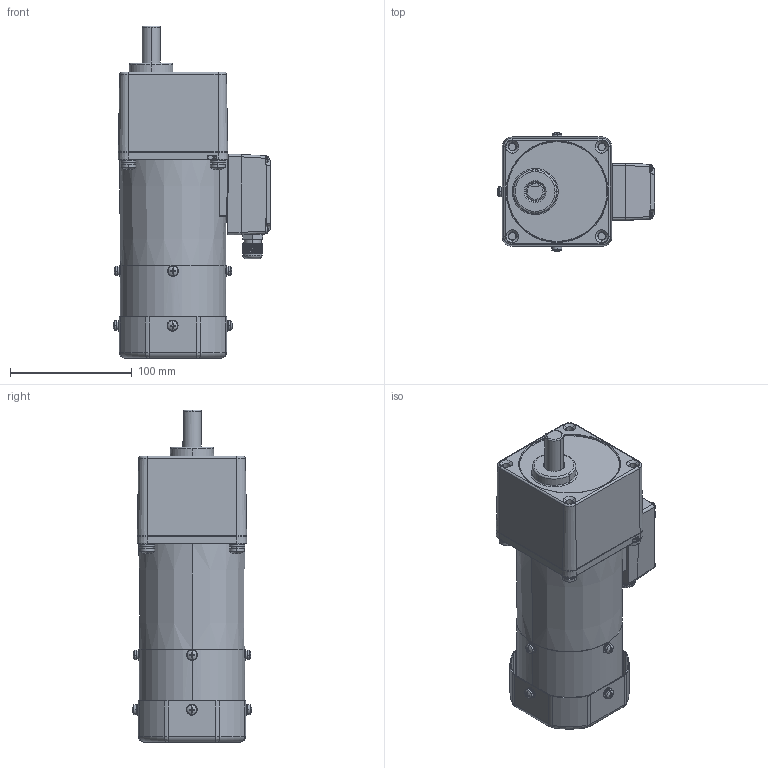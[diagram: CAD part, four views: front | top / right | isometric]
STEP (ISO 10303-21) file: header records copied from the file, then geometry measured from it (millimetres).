
FILE_DESCRIPTION (( 'STEP AP203' ), '1' );
FILE_NAME ('5RK60GU-CMFT(5GU3KB-200KB).STEP', '2023-08-08T06:08:03', ( 'Windows User' ), ( 'P R C' ), 'SwSTEP 2.0', 'SolidWorks 2019', '' );
FILE_SCHEMA (( 'CONFIG_CONTROL_DESIGN' ));
Length unit declared in the file: millimetre
Products named in the file (14): 70TSJXHG^___5RK60GU-CMFT(5GU3KB-200KB)(2)_5RK60GU-CMFT(5GU3KB-200KB); ^__5RK60GU-CMFT(5GU3KB-200KB)(2)_5RK60GU-CMFT(5GU3KB-200KB); ^_5RK60GU-CMFT(5GU3KB-200KB)(2)_5RK60GU-CMFT(5GU3KB-200KB); 葩璃 (2) ^___5RK60GU-CMFT(5GU3KB-200KB)(2)_5RK60GU-CMFT(5GU3KB-200KB); ^_70TSJXHG____5RK60GU-CMFT(5GU3KB-200KB)(2)_5RK60GU-CMFT(5GU3KB-200KB); 5RK60GU-CMFT(5GU3KB-200KB); 5RK60GU-CMFT(5GU3KB-200KB)(2)^5RK60GU-CMFT(5GU3KB-200KB); ^___5RK60GU-CMFT(5GU3KB-200KB)(2)_5RK60GU-CMFT(5GU3KB-200KB); 葩璃 (3) ^_70TSJXHG____5RK60GU-CMFT(5GU3KB-200KB)(2)_5RK60GU-CMFT(5GU3KB-200KB); ^70TSJXHG____5RK60GU-CMFT(5GU3KB-200KB)(2)_5RK60GU-CMFT(5GU3KB-200KB); 葩璃 (2) ^_70TSJXHG____5RK60GU-CMFT(5GU3KB-200KB)(2)_5RK60GU-CMFT(5GU3KB-200KB); 5GU3KB-200KB^5RK60GU-CMFT(5GU3KB-200KB)(2)_5RK60GU-CMFT(5GU3KB-200KB); ^5RK60GU-CMFT(5GU3KB-200KB)(2)_5RK60GU-CMFT(5GU3KB-200KB)
Assembly tree (16 placements, depth 8):
  5RK60GU-CMFT(5GU3KB-200KB)
    5RK60GU-CMFT(5GU3KB-200KB)(2)^5RK60GU-CMFT(5GU3KB-200KB)
      ^5RK60GU-CMFT(5GU3KB-200KB)(2)_5RK60GU-CMFT(5GU3KB-200KB)
        ^_5RK60GU-CMFT(5GU3KB-200KB)(2)_5RK60GU-CMFT(5GU3KB-200KB)
          ^__5RK60GU-CMFT(5GU3KB-200KB)(2)_5RK60GU-CMFT(5GU3KB-200KB)
            70TSJXHG^___5RK60GU-CMFT(5GU3KB-200KB)(2)_5RK60GU-CMFT(5GU3KB-200KB)
              ^70TSJXHG____5RK60GU-CMFT(5GU3KB-200KB)(2)_5RK60GU-CMFT(5GU3KB-200KB)
                ^_70TSJXHG____5RK60GU-CMFT(5GU3KB-200KB)(2)_5RK60GU-CMFT(5GU3KB-200KB)
                葩璃 (2) ^_70TSJXHG____5RK60GU-CMFT(5GU3KB-200KB)(2)_5RK60GU-CMFT(5GU3KB-200KB)
                葩璃 (3) ^_70TSJXHG____5RK60GU-CMFT(5GU3KB-200KB)(2)_5RK60GU-CMFT(5GU3KB-200KB)  x4
            ^___5RK60GU-CMFT(5GU3KB-200KB)(2)_5RK60GU-CMFT(5GU3KB-200KB)
            葩璃 (2) ^___5RK60GU-CMFT(5GU3KB-200KB)(2)_5RK60GU-CMFT(5GU3KB-200KB)
          ^__5RK60GU-CMFT(5GU3KB-200KB)(2)_5RK60GU-CMFT(5GU3KB-200KB)
      5GU3KB-200KB^5RK60GU-CMFT(5GU3KB-200KB)(2)_5RK60GU-CMFT(5GU3KB-200KB)
Bounding box: 129.69 x 98.11 x 273 mm (x, y, z)
Volume: 1281927.2 mm3; surface area: 198440 mm2
Topology: 49 solids, 49 shells, 1952 faces, 5043 edges, 3207 vertices
Faces by surface type: cylinder 784, plane 572, cone 374, torus 106, sphere 80, bspline 36
Entity records: 55888 total; most frequent: CARTESIAN_POINT 15473, DIRECTION 8598, ORIENTED_EDGE 8022, EDGE_CURVE 4011, AXIS2_PLACEMENT_3D 3513, VERTEX_POINT 2591, CIRCLE 1959, EDGE_LOOP 1704
